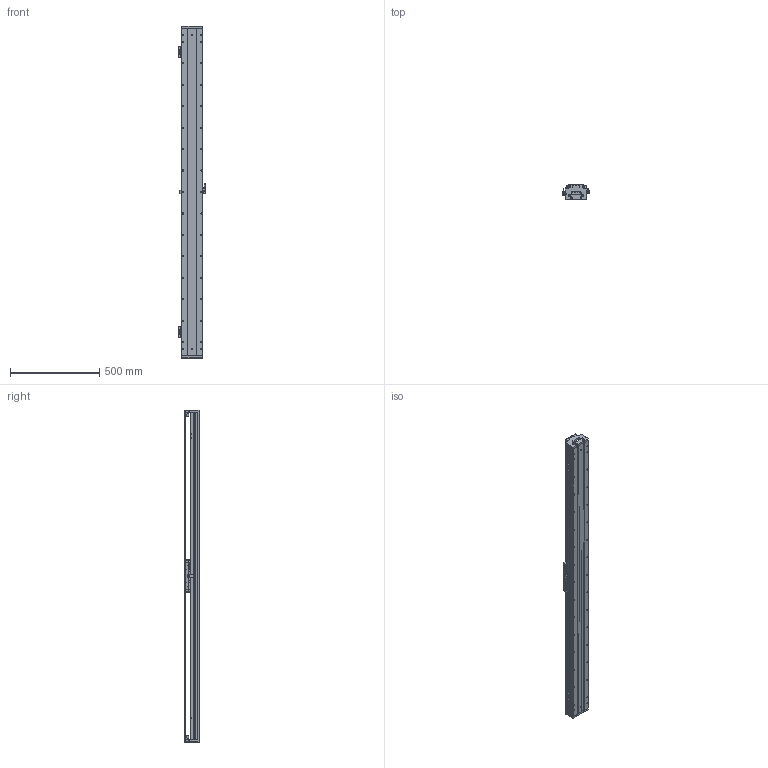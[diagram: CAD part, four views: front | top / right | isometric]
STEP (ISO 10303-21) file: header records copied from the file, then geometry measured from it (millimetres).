
FILE_DESCRIPTION (( 'STEP AP203' ), '1' );
FILE_NAME ('DKW120-B2-W060（T1560-L005-0.2）.STEP', '2021-09-02T06:39:43', ( '微软用户' ), ( '微软中国' ), 'SwSTEP 2.0', 'SolidWorks 2018', '' );
FILE_SCHEMA (( 'CONFIG_CONTROL_DESIGN' ));
Length unit declared in the file: millimetre
Products named in the file (20): RUS嫖掑郪璃; 10940-0001-004-00 120詩湍裔啣; DKW119-RU-DTJ-00 RU2黍杅芛盓殤; 砎蝶猾沭; 10980-0001-003-00 嫖萇羲壽嘐隅釱; 12160-0000-003-00 DKW120詩湍嶺輸; DKW-SG-GYP-H-00 嫖萇覜茼え; 12160-0000-004-00  DKW120詩湍揤輸; DKW120-B15-T300-DZ-00 菁釱; EE_SX674A; DKW120 单轴模组-拉钢带组件; MSB15-DG-U; B2-W060_00; BKMA01-W060-TRL280; 06652-0001-001-00 DKW120傷啣; DKW120-B2-W060（T1560-L005-0.2）; RUS嫖掑喜; 06652-0001-004-00 DKW120嶺輸菜輸; Ru2; DKW-HXJ-JY-00 遣喳砎蝶
Assembly tree (33 placements, depth 3):
  DKW120-B2-W060（T1560-L005-0.2）
    DKW120-B15-T300-DZ-00 菁釱
    MSB15-DG-U  x2
    DKW120 单轴模组-拉钢带组件
      06652-0001-001-00 DKW120傷啣  x2
      06652-0001-004-00 DKW120嶺輸菜輸  x4
      DKW-HXJ-JY-00 遣喳砎蝶  x4
      10940-0001-004-00 120詩湍裔啣
      砎蝶猾沭  x2
      12160-0000-003-00 DKW120詩湍嶺輸  x2
      12160-0000-004-00  DKW120詩湍揤輸  x2
    BKMA01-W060-TRL280
    RUS嫖掑郪璃
      RUS嫖掑喜
      Ru2
    DKW119-RU-DTJ-00 RU2黍杅芛盓殤
    10980-0001-003-00 嫖萇羲壽嘐隅釱  x2
    DKW-SG-GYP-H-00 嫖萇覜茼え
    EE_SX674A  x3
    B2-W060_00
Bounding box: 154.1 x 84 x 1856 mm (x, y, z)
Volume: 6466628.3 mm3; surface area: 2560452.4 mm2
Topology: 41 solids, 90 shells, 4232 faces, 11658 edges, 7513 vertices
Faces by surface type: plane 2255, cylinder 1398, cone 332, bspline 247
Entity records: 136494 total; most frequent: CARTESIAN_POINT 47693, ORIENTED_EDGE 18457, DIRECTION 17104, EDGE_CURVE 9269, VERTEX_POINT 6092, AXIS2_PLACEMENT_3D 5718, VECTOR 5668, LINE 5668
